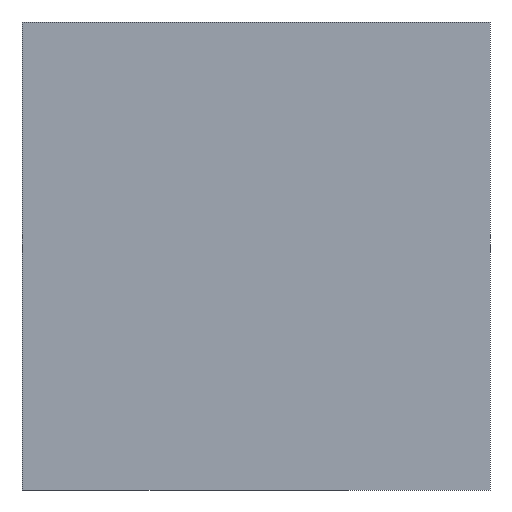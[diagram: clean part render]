
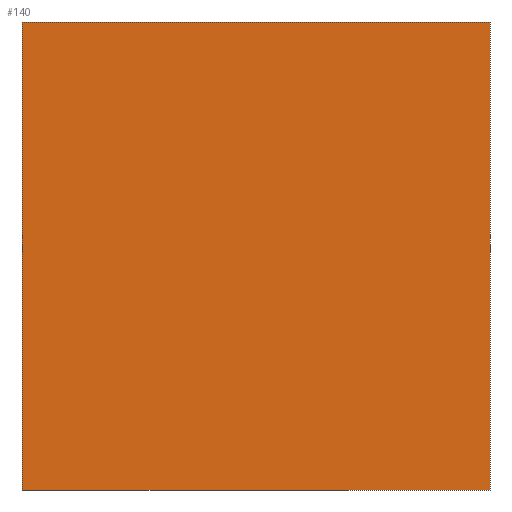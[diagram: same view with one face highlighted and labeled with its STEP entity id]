
A CAD part, left-side view. The second image highlights one B-rep face of the part: STEP entity #140.
In plain terms, the highlighted planar face has unit normal (-1, 0, 0).
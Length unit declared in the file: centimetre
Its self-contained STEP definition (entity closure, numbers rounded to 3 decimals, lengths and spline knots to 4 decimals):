
#1 = DIRECTION ( 'NONE',  ( 0., 0., -1. ) ) ;
#34 = AXIS2_PLACEMENT_3D ( 'NONE', #459, #82, #302 ) ;
#41 = DIRECTION ( 'NONE',  ( 0., -1., 0. ) ) ;
#55 = CARTESIAN_POINT ( 'NONE',  ( 0., 1000., 1000. ) ) ;
#65 = ORIENTED_EDGE ( 'NONE', *, *, #366, .T. ) ;
#68 = VERTEX_POINT ( 'NONE', #79 ) ;
#79 = CARTESIAN_POINT ( 'NONE',  ( 0., 1000., 1000. ) ) ;
#82 = DIRECTION ( 'NONE',  ( 1., 0., 0. ) ) ;
#88 = LINE ( 'NONE', #424, #405 ) ;
#140 = ADVANCED_FACE ( 'NONE', ( #574 ), #347, .F. ) ;
#151 = VERTEX_POINT ( 'NONE', #407 ) ;
#153 = ORIENTED_EDGE ( 'NONE', *, *, #332, .F. ) ;
#232 = VERTEX_POINT ( 'NONE', #648 ) ;
#234 = ORIENTED_EDGE ( 'NONE', *, *, #245, .F. ) ;
#245 = EDGE_CURVE ( 'NONE', #522, #232, #88, .T. ) ;
#297 = CARTESIAN_POINT ( 'NONE',  ( 0., 1000., 0. ) ) ;
#302 = DIRECTION ( 'NONE',  ( 0., 0., -1. ) ) ;
#304 = CARTESIAN_POINT ( 'NONE',  ( 0., 0., 1000. ) ) ;
#310 = LINE ( 'NONE', #55, #668 ) ;
#332 = EDGE_CURVE ( 'NONE', #68, #522, #310, .T. ) ;
#347 = PLANE ( 'NONE',  #34 ) ;
#366 = EDGE_CURVE ( 'NONE', #151, #232, #454, .T. ) ;
#378 = LINE ( 'NONE', #488, #483 ) ;
#405 = VECTOR ( 'NONE', #1, 100. ) ;
#407 = CARTESIAN_POINT ( 'NONE',  ( 0., 1000., 0. ) ) ;
#424 = CARTESIAN_POINT ( 'NONE',  ( 0., 0., 1000. ) ) ;
#454 = LINE ( 'NONE', #297, #552 ) ;
#459 = CARTESIAN_POINT ( 'NONE',  ( 0., 1000., 1000. ) ) ;
#483 = VECTOR ( 'NONE', #606, 100. ) ;
#488 = CARTESIAN_POINT ( 'NONE',  ( 0., 1000., 1000. ) ) ;
#522 = VERTEX_POINT ( 'NONE', #304 ) ;
#552 = VECTOR ( 'NONE', #685, 100. ) ;
#564 = ORIENTED_EDGE ( 'NONE', *, *, #678, .T. ) ;
#574 = FACE_OUTER_BOUND ( 'NONE', #597, .T. ) ;
#597 = EDGE_LOOP ( 'NONE', ( #65, #234, #153, #564 ) ) ;
#606 = DIRECTION ( 'NONE',  ( 0., 0., -1. ) ) ;
#648 = CARTESIAN_POINT ( 'NONE',  ( 0., 0., 0. ) ) ;
#668 = VECTOR ( 'NONE', #41, 100. ) ;
#678 = EDGE_CURVE ( 'NONE', #68, #151, #378, .T. ) ;
#685 = DIRECTION ( 'NONE',  ( 0., -1., 0. ) ) ;
